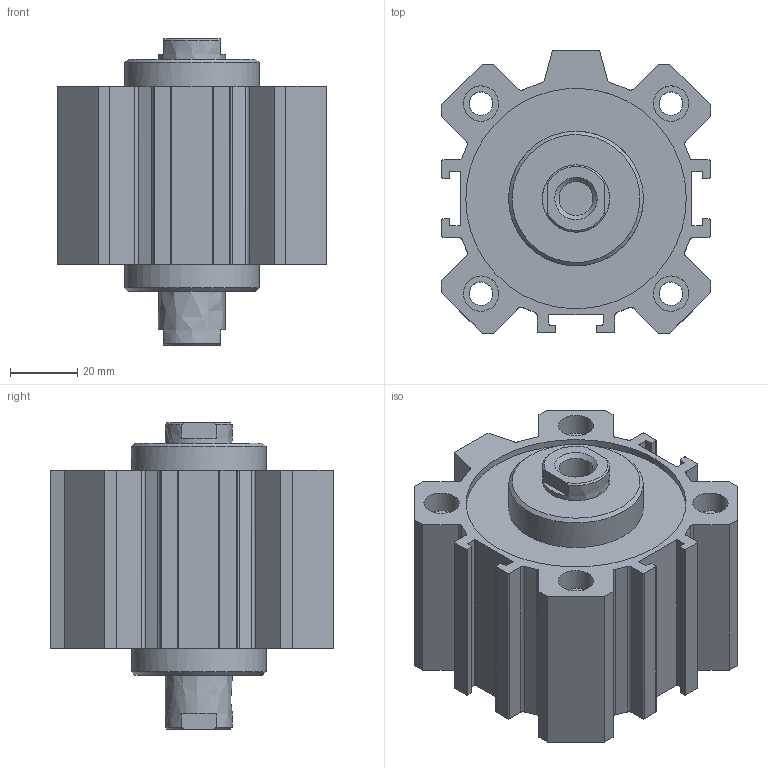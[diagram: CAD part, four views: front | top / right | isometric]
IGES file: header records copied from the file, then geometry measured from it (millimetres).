
Global section: file name: 1514_63_0010; native system: Autodesk Inventor 2014; preprocessor: unknown; author: A. Manieri; date: 20160824.140217; units: millimetre
Bounding box: 80 x 84 x 91 mm (x, y, z)
Volume: 259734.8 mm3; surface area: 68891.1 mm2
Topology: 2 solids, 2 shells, 178 faces, 482 edges, 328 vertices
Faces by surface type: bspline 178
